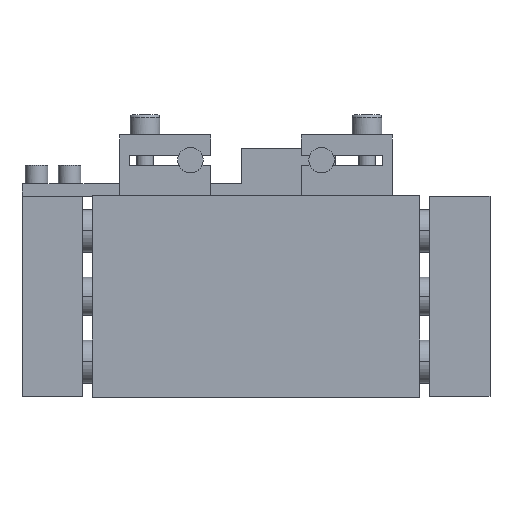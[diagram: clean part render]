
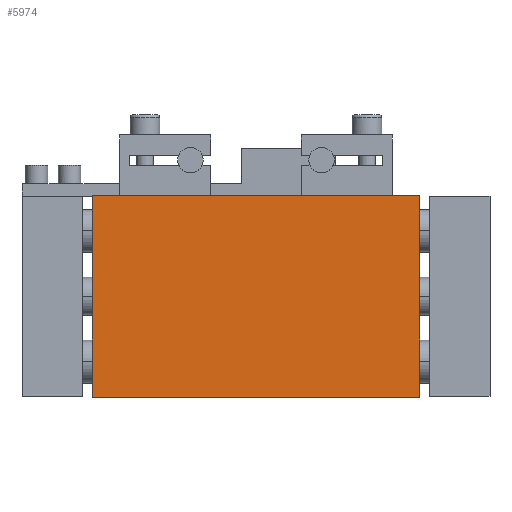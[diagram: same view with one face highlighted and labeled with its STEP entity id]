
A CAD part, front view. The second image highlights one B-rep face of the part: STEP entity #5974.
In plain terms, the highlighted planar face has unit normal (0, -1, 0).
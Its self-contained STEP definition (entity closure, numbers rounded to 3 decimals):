
#257 = FACE_OUTER_BOUND ( 'NONE', #7226, .T. ) ;
#289 = CARTESIAN_POINT ( 'NONE',  ( -25.781, -20.637, -15.875 ) ) ;
#502 = VERTEX_POINT ( 'NONE', #1913 ) ;
#567 = VERTEX_POINT ( 'NONE', #4464 ) ;
#661 = LINE ( 'NONE', #6356, #6854 ) ;
#1190 = LINE ( 'NONE', #289, #4512 ) ;
#1317 = EDGE_CURVE ( 'NONE', #502, #4770, #6499, .T. ) ;
#1466 = DIRECTION ( 'NONE',  ( 1., 0., 0. ) ) ;
#1518 = CARTESIAN_POINT ( 'NONE',  ( -25.781, -20.637, 15.875 ) ) ;
#1546 = VECTOR ( 'NONE', #5864, 1000. ) ;
#1913 = CARTESIAN_POINT ( 'NONE',  ( -25.781, -20.637, 15.875 ) ) ;
#1958 = PLANE ( 'NONE',  #6117 ) ;
#1982 = DIRECTION ( 'NONE',  ( 0., 0., 1. ) ) ;
#2193 = VERTEX_POINT ( 'NONE', #6493 ) ;
#3015 = EDGE_CURVE ( 'NONE', #502, #567, #4921, .T. ) ;
#3063 = CARTESIAN_POINT ( 'NONE',  ( -25.781, -20.637, 15.875 ) ) ;
#3080 = VECTOR ( 'NONE', #3677, 1000. ) ;
#3175 = EDGE_CURVE ( 'NONE', #4770, #2193, #661, .T. ) ;
#3677 = DIRECTION ( 'NONE',  ( 0., 0., -1. ) ) ;
#4009 = EDGE_CURVE ( 'NONE', #567, #2193, #1190, .T. ) ;
#4046 = CARTESIAN_POINT ( 'NONE',  ( 25.781, -20.637, 15.875 ) ) ;
#4423 = CARTESIAN_POINT ( 'NONE',  ( -25.781, -20.637, 15.875 ) ) ;
#4464 = CARTESIAN_POINT ( 'NONE',  ( -25.781, -20.637, -15.875 ) ) ;
#4512 = VECTOR ( 'NONE', #1466, 1000. ) ;
#4770 = VERTEX_POINT ( 'NONE', #4046 ) ;
#4921 = LINE ( 'NONE', #3063, #3080 ) ;
#5697 = DIRECTION ( 'NONE',  ( 0., 1., 0. ) ) ;
#5864 = DIRECTION ( 'NONE',  ( 1., 0., 0. ) ) ;
#5880 = ORIENTED_EDGE ( 'NONE', *, *, #3015, .T. ) ;
#5974 = ADVANCED_FACE ( 'NONE', ( #257 ), #1958, .F. ) ;
#5992 = ORIENTED_EDGE ( 'NONE', *, *, #4009, .T. ) ;
#6117 = AXIS2_PLACEMENT_3D ( 'NONE', #4423, #5697, #1982 ) ;
#6356 = CARTESIAN_POINT ( 'NONE',  ( 25.781, -20.637, 15.875 ) ) ;
#6376 = ORIENTED_EDGE ( 'NONE', *, *, #3175, .F. ) ;
#6493 = CARTESIAN_POINT ( 'NONE',  ( 25.781, -20.637, -15.875 ) ) ;
#6499 = LINE ( 'NONE', #1518, #1546 ) ;
#6854 = VECTOR ( 'NONE', #7551, 1000. ) ;
#7226 = EDGE_LOOP ( 'NONE', ( #5992, #6376, #7578, #5880 ) ) ;
#7551 = DIRECTION ( 'NONE',  ( 0., 0., -1. ) ) ;
#7578 = ORIENTED_EDGE ( 'NONE', *, *, #1317, .F. ) ;
